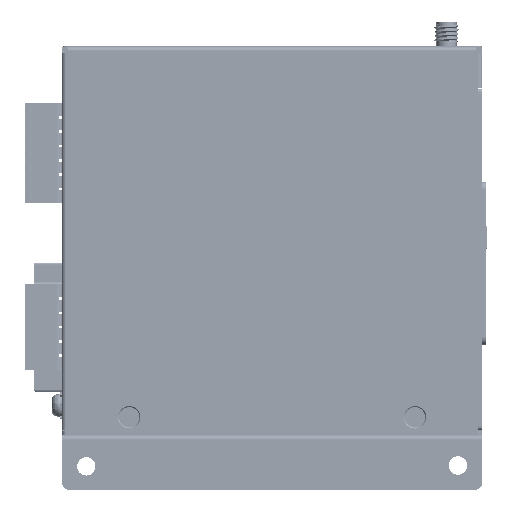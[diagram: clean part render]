
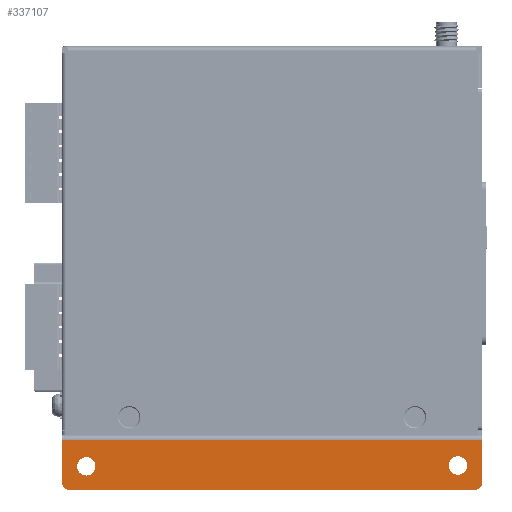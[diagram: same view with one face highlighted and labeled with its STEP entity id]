
A CAD part, left-side view. The second image highlights one B-rep face of the part: STEP entity #337107.
In plain terms, the highlighted planar face has unit normal (-1, 0, 0) as drawn and (0, -1, 0) by its records, which use the part's own axes.
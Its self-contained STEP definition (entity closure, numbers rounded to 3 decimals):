
#11161 = AXIS2_PLACEMENT_3D ( 'NONE', #297217, #410077, #22819 ) ;
#22819 = DIRECTION ( 'NONE',  ( 1., 0., 0. ) ) ;
#27283 = ORIENTED_EDGE ( 'NONE', *, *, #196786, .F. ) ;
#31737 = CARTESIAN_POINT ( 'NONE',  ( 13.5, 0., -51.5 ) ) ;
#31975 = CARTESIAN_POINT ( 'NONE',  ( 11.5, 0., 49.5 ) ) ;
#34664 = ORIENTED_EDGE ( 'NONE', *, *, #441722, .F. ) ;
#35526 = VECTOR ( 'NONE', #366893, 1000. ) ;
#38676 = FACE_BOUND ( 'NONE', #336107, .T. ) ;
#42370 = CIRCLE ( 'NONE', #417823, 2.25 ) ;
#50252 = DIRECTION ( 'NONE',  ( 0., -1., 0. ) ) ;
#52491 = ORIENTED_EDGE ( 'NONE', *, *, #181572, .T. ) ;
#63513 = VERTEX_POINT ( 'NONE', #302956 ) ;
#65956 = CARTESIAN_POINT ( 'NONE',  ( 11.5, 0., 51.5 ) ) ;
#70818 = DIRECTION ( 'NONE',  ( 0., 0., 1. ) ) ;
#70914 = EDGE_CURVE ( 'NONE', #432223, #345700, #216202, .T. ) ;
#71495 = VERTEX_POINT ( 'NONE', #311132 ) ;
#72488 = ORIENTED_EDGE ( 'NONE', *, *, #128124, .F. ) ;
#77789 = PLANE ( 'NONE',  #187608 ) ;
#83051 = VERTEX_POINT ( 'NONE', #279312 ) ;
#84293 = AXIS2_PLACEMENT_3D ( 'NONE', #244044, #237153, #200231 ) ;
#86827 = DIRECTION ( 'NONE',  ( -1., 0., 0. ) ) ;
#97639 = DIRECTION ( 'NONE',  ( 0., -1., 0. ) ) ;
#109732 = CARTESIAN_POINT ( 'NONE',  ( 9.965, 0., -45.5 ) ) ;
#111094 = CARTESIAN_POINT ( 'NONE',  ( 1.2, 0., -51.5 ) ) ;
#122737 = DIRECTION ( 'NONE',  ( -1., 0., 0. ) ) ;
#125313 = DIRECTION ( 'NONE',  ( 1., 0., 0. ) ) ;
#128124 = EDGE_CURVE ( 'NONE', #161165, #374180, #42370, .T. ) ;
#143915 = ORIENTED_EDGE ( 'NONE', *, *, #70914, .T. ) ;
#149080 = FACE_BOUND ( 'NONE', #223218, .T. ) ;
#152985 = ORIENTED_EDGE ( 'NONE', *, *, #227293, .T. ) ;
#159940 = CARTESIAN_POINT ( 'NONE',  ( 9.75, 0., 45.5 ) ) ;
#161165 = VERTEX_POINT ( 'NONE', #109732 ) ;
#161289 = VERTEX_POINT ( 'NONE', #201568 ) ;
#181572 = EDGE_CURVE ( 'NONE', #83051, #432223, #332303, .T. ) ;
#183783 = CARTESIAN_POINT ( 'NONE',  ( 1.2, 0., -51.5 ) ) ;
#187608 = AXIS2_PLACEMENT_3D ( 'NONE', #331244, #413460, #86827 ) ;
#188395 = ORIENTED_EDGE ( 'NONE', *, *, #205253, .T. ) ;
#189211 = EDGE_CURVE ( 'NONE', #374180, #161165, #430701, .T. ) ;
#196786 = EDGE_CURVE ( 'NONE', #239728, #71495, #359796, .T. ) ;
#200231 = DIRECTION ( 'NONE',  ( -1., 0., 0. ) ) ;
#201568 = CARTESIAN_POINT ( 'NONE',  ( 13.5, 0., -49.5 ) ) ;
#205253 = EDGE_CURVE ( 'NONE', #63513, #161289, #452141, .T. ) ;
#207005 = DIRECTION ( 'NONE',  ( 0., -1., 0. ) ) ;
#214832 = LINE ( 'NONE', #111094, #35526 ) ;
#216202 = LINE ( 'NONE', #359239, #264786 ) ;
#223218 = EDGE_LOOP ( 'NONE', ( #72488, #312499 ) ) ;
#227293 = EDGE_CURVE ( 'NONE', #161289, #83051, #246073, .T. ) ;
#229618 = CARTESIAN_POINT ( 'NONE',  ( 7.5, 0., 45.5 ) ) ;
#237153 = DIRECTION ( 'NONE',  ( 0., -1., 0. ) ) ;
#239728 = VERTEX_POINT ( 'NONE', #159940 ) ;
#244044 = CARTESIAN_POINT ( 'NONE',  ( 11.5, 0., -49.5 ) ) ;
#246073 = LINE ( 'NONE', #31737, #283028 ) ;
#259033 = CARTESIAN_POINT ( 'NONE',  ( 13.5, 0., -51.5 ) ) ;
#264786 = VECTOR ( 'NONE', #432906, 1000. ) ;
#274098 = DIRECTION ( 'NONE',  ( -1., 0., 0. ) ) ;
#279061 = CARTESIAN_POINT ( 'NONE',  ( 5.465, 0., -45.5 ) ) ;
#279312 = CARTESIAN_POINT ( 'NONE',  ( 13.5, 0., 49.5 ) ) ;
#283028 = VECTOR ( 'NONE', #70818, 1000. ) ;
#295769 = LINE ( 'NONE', #259033, #396167 ) ;
#297217 = CARTESIAN_POINT ( 'NONE',  ( 7.715, 0., -45.5 ) ) ;
#302956 = CARTESIAN_POINT ( 'NONE',  ( 11.5, 0., -51.5 ) ) ;
#311132 = CARTESIAN_POINT ( 'NONE',  ( 5.25, 0., 45.5 ) ) ;
#312499 = ORIENTED_EDGE ( 'NONE', *, *, #189211, .F. ) ;
#328116 = CIRCLE ( 'NONE', #445861, 2.25 ) ;
#331244 = CARTESIAN_POINT ( 'NONE',  ( 13.5, 0., -51.5 ) ) ;
#332303 = CIRCLE ( 'NONE', #391218, 2. ) ;
#333717 = DIRECTION ( 'NONE',  ( 1., 0., 0. ) ) ;
#335749 = DIRECTION ( 'NONE',  ( 0., -1., 0. ) ) ;
#335979 = CARTESIAN_POINT ( 'NONE',  ( 7.5, 0., 45.5 ) ) ;
#336107 = EDGE_LOOP ( 'NONE', ( #27283, #375160 ) ) ;
#337107 = ADVANCED_FACE ( 'NONE', ( #38676, #149080, #393605 ), #77789, .F. ) ;
#345700 = VERTEX_POINT ( 'NONE', #408483 ) ;
#359239 = CARTESIAN_POINT ( 'NONE',  ( 13.5, 0., 51.5 ) ) ;
#359796 = CIRCLE ( 'NONE', #440661, 2.25 ) ;
#366893 = DIRECTION ( 'NONE',  ( 0., 0., -1. ) ) ;
#370138 = EDGE_LOOP ( 'NONE', ( #34664, #188395, #152985, #52491, #143915, #448507 ) ) ;
#374180 = VERTEX_POINT ( 'NONE', #279061 ) ;
#375160 = ORIENTED_EDGE ( 'NONE', *, *, #402471, .F. ) ;
#376575 = CARTESIAN_POINT ( 'NONE',  ( 7.715, 0., -45.5 ) ) ;
#391218 = AXIS2_PLACEMENT_3D ( 'NONE', #31975, #207005, #274098 ) ;
#393605 = FACE_OUTER_BOUND ( 'NONE', #370138, .T. ) ;
#396167 = VECTOR ( 'NONE', #122737, 1000. ) ;
#400418 = DIRECTION ( 'NONE',  ( 1., 0., 0. ) ) ;
#402471 = EDGE_CURVE ( 'NONE', #71495, #239728, #328116, .T. ) ;
#408483 = CARTESIAN_POINT ( 'NONE',  ( 1.2, 0., 51.5 ) ) ;
#410077 = DIRECTION ( 'NONE',  ( 0., -1., 0. ) ) ;
#413460 = DIRECTION ( 'NONE',  ( 0., 1., 0. ) ) ;
#417823 = AXIS2_PLACEMENT_3D ( 'NONE', #376575, #97639, #125313 ) ;
#427371 = EDGE_CURVE ( 'NONE', #345700, #432682, #214832, .T. ) ;
#430701 = CIRCLE ( 'NONE', #11161, 2.25 ) ;
#432223 = VERTEX_POINT ( 'NONE', #65956 ) ;
#432682 = VERTEX_POINT ( 'NONE', #183783 ) ;
#432906 = DIRECTION ( 'NONE',  ( -1., 0., 0. ) ) ;
#440661 = AXIS2_PLACEMENT_3D ( 'NONE', #335979, #50252, #333717 ) ;
#441722 = EDGE_CURVE ( 'NONE', #63513, #432682, #295769, .T. ) ;
#445861 = AXIS2_PLACEMENT_3D ( 'NONE', #229618, #335749, #400418 ) ;
#448507 = ORIENTED_EDGE ( 'NONE', *, *, #427371, .T. ) ;
#452141 = CIRCLE ( 'NONE', #84293, 2. ) ;
